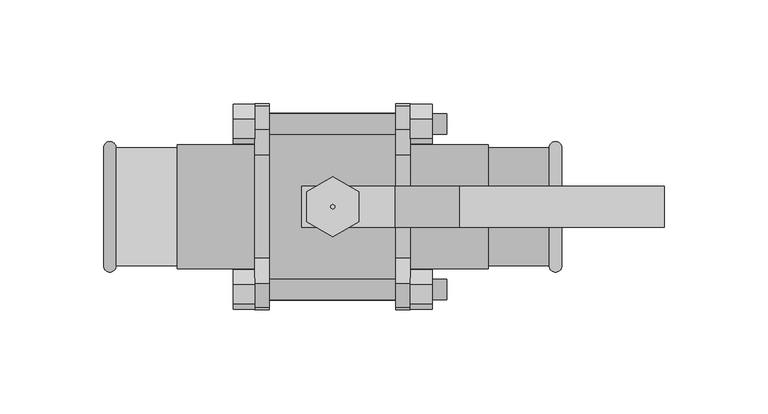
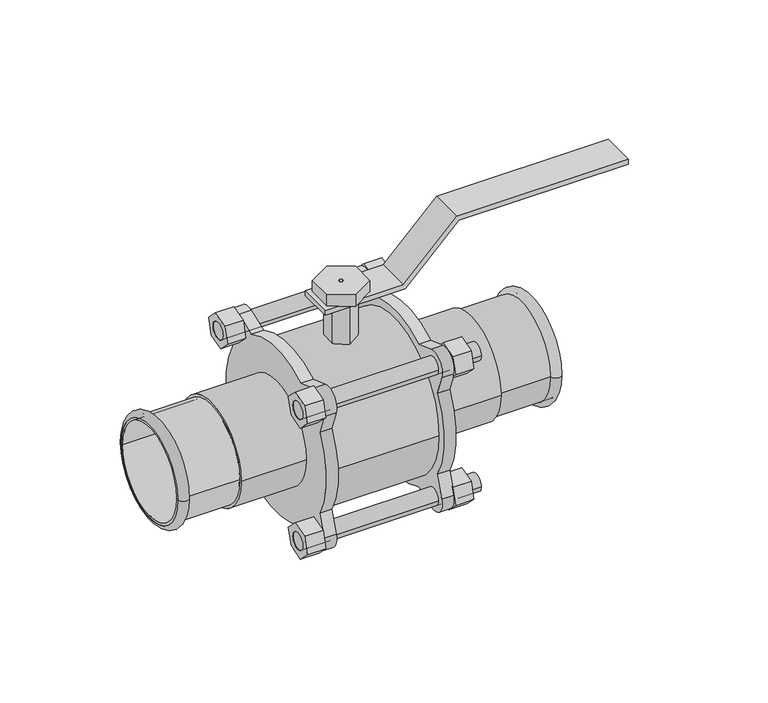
"""IFC4 building model written with IfcOpenShell, lengths in millimetres: valve geometry, NLRS_50_PIA_UN_Geberit Mapress CuNiFe kogelkraan met bedieningshendel, geflensd_PRO_332965 : DN12-100 / d15-108 - OD."""

from ifc_helpers import new_model, si_unit, point, frame, frame_2d, origin, origin_2d, place, context, project, spatial, polyline, circle_curve, ellipse_curve, trimmed, segment, composite_curve, outline, extrude, source, transform, mapped, element, save
from ifc_brep_helpers import plane_surface, cylinder_surface, revolved_surface, advanced_brep


def valve_6e79c216(model_context):
    return source(origin(), model_context, "Body", "SolidModel", [
        extrude(outline(polyline([(68.0, 31.2426407), (99.0, 62.2426407), (99.0, 160.0), (102.0, 160.0), (102.0, 61.0), (71.0, 30.0), (71.0, -15.0), (68.0, -15.0), (68.0, 31.2426407)])), frame((0.0, -10.0, 0.0), z_axis=(0.0, 1.0, 0.0), x_axis=(0.0, 0.0, 1.0)), (0.0, 0.0, 1.0), 20.0),
        advanced_brep(
        [(110.5, -28.5, 0.0), (110.5, 28.5, 0.0), (104.4987073, 28.5, 0.0), (104.4987073, -28.5, 0.0)],
        [
            (0, 1, circle_curve(frame((110.5, 0.0, 0.0), z_axis=(1.0, 0.0, 0.0), x_axis=(0.0, 1.0, 0.0)), 28.5)),
            (1, 2),
            (2, 3, circle_curve(frame((104.4987073, 0.0, 0.0), z_axis=(-1.0, 0.0, 0.0), x_axis=(0.0, 1.0, 0.0)), 28.5)),
            (3, 0),
            (1, 0, circle_curve(frame((110.5, 0.0, 0.0), z_axis=(1.0, 0.0, 0.0), x_axis=(0.0, 1.0, 0.0)), 28.5)),
            (3, 2, circle_curve(frame((104.4987073, 0.0, 0.0), z_axis=(-1.0, 0.0, 0.0), x_axis=(0.0, 1.0, 0.0)), 28.5)),
            (2, 1, circle_curve(frame((107.4993536, 28.5, 0.0), z_axis=(0.0, 0.0, -1.0), x_axis=(1.0, 0.0, 0.0)), 3.0006464)),
            (0, 3, circle_curve(frame((107.4993536, -28.5, 0.0), z_axis=(0.0, 0.0, -1.0), x_axis=(1.0, 0.0, 0.0)), 3.0006464)),
        ],
        [
            revolved_surface(polyline([(104.4987073, 28.5, 0.0), (110.5, 28.5, 0.0)]), (75.0, 0.0, 0.0), (-1.0, 0.0, 0.0)),
            revolved_surface(trimmed(ellipse_curve(frame((107.4993536, 28.5, 0.0), z_axis=(0.0, 0.0, 1.0), x_axis=(1.0, 0.0, 0.0)), 3.0006464, 3.0006464), [point((110.5, 28.5, 0.0))], [point((104.4987073, 28.5, 0.0))], True, "CARTESIAN"), (75.0, 0.0, 0.0), (-1.0, 0.0, 0.0)),
        ],
        [
            (0, [[1, 2, 3, 4]]),
            (0, [[5, -4, 6, -2]]),
            (1, [[-3, 7, -1, 8]]),
            (1, [[-6, -8, -5, -7]]),
        ],
    ),
        advanced_brep(
        [(110.5, -27.0, 0.0), (110.5, 27.0, 0.0), (74.0, 27.0, 0.0), (74.0, -27.0, 0.0), (110.5, -28.5, 0.0), (110.5, 28.5, 0.0), (75.0, -28.5, 0.0), (75.0, 28.5, 0.0)],
        [
            (0, 1, circle_curve(frame((110.5, 0.0, 0.0), z_axis=(1.0, 0.0, 0.0), x_axis=(0.0, 1.0, 0.0)), 27.0)),
            (1, 2),
            (2, 3, circle_curve(frame((74.0, 0.0, 0.0), z_axis=(-1.0, 0.0, 0.0), x_axis=(0.0, 1.0, 0.0)), 27.0)),
            (3, 0),
            (1, 0, circle_curve(frame((110.5, 0.0, 0.0), z_axis=(1.0, 0.0, 0.0), x_axis=(0.0, 1.0, 0.0)), 27.0)),
            (3, 2, circle_curve(frame((74.0, 0.0, 0.0), z_axis=(-1.0, 0.0, 0.0), x_axis=(0.0, 1.0, 0.0)), 27.0)),
            (4, 5, circle_curve(frame((110.5, 0.0, 0.0), z_axis=(1.0, 0.0, 0.0), x_axis=(0.0, 1.0, 0.0)), 28.5)),
            (5, 1),
            (0, 4),
            (5, 4, circle_curve(frame((110.5, 0.0, 0.0), z_axis=(1.0, 0.0, 0.0), x_axis=(0.0, 1.0, 0.0)), 28.5)),
            (6, 7, circle_curve(frame((75.0, 0.0, 0.0), z_axis=(1.0, 0.0, 0.0), x_axis=(0.0, 1.0, 0.0)), 28.5)),
            (7, 5),
            (4, 6),
            (7, 6, circle_curve(frame((75.0, 0.0, 0.0), z_axis=(1.0, 0.0, 0.0), x_axis=(0.0, 1.0, 0.0)), 28.5)),
            (2, 7),
            (6, 3),
        ],
        [
            revolved_surface(polyline([(74.0, 27.0, 0.0), (110.5, 27.0, 0.0)]), (75.0, 0.0, 0.0), (-1.0, 0.0, 0.0)),
            plane_surface(frame((110.5, 0.0, 0.0), z_axis=(1.0, 0.0, 0.0), x_axis=(0.0, 1.0, 0.0))),
            cylinder_surface(frame((75.0, 0.0, 0.0), z_axis=(-1.0, 0.0, 0.0), x_axis=(0.0, 1.0, 0.0)), 28.5),
            revolved_surface(polyline([(75.0, 28.5, 0.0), (74.0, 27.0, 0.0)]), (75.0, 0.0, 0.0), (-1.0, 0.0, 0.0)),
        ],
        [
            (0, [[1, 2, 3, 4]]),
            (0, [[5, -4, 6, -2]]),
            (1, [[7, 8, -1, 9]]),
            (1, [[10, -9, -5, -8]]),
            (2, [[11, 12, -7, 13]]),
            (2, [[14, -13, -10, -12]]),
            (3, [[-3, 15, -11, 16]]),
            (3, [[-6, -16, -14, -15]]),
        ],
    ),
        advanced_brep(
        [(-110.5, 28.5, 0.0), (-110.5, -28.5, 0.0), (-104.4987073, -28.5, 0.0), (-104.4987073, 28.5, 0.0)],
        [
            (0, 1, circle_curve(frame((-110.5, 0.0, 0.0), z_axis=(-1.0, 0.0, 0.0), x_axis=(0.0, -1.0, 0.0)), 28.5)),
            (1, 2),
            (2, 3, circle_curve(frame((-104.4987073, 0.0, 0.0), z_axis=(1.0, 0.0, 0.0), x_axis=(0.0, -1.0, 0.0)), 28.5)),
            (3, 0),
            (1, 0, circle_curve(frame((-110.5, 0.0, 0.0), z_axis=(-1.0, 0.0, 0.0), x_axis=(0.0, -1.0, 0.0)), 28.5)),
            (3, 2, circle_curve(frame((-104.4987073, 0.0, 0.0), z_axis=(1.0, 0.0, 0.0), x_axis=(0.0, -1.0, 0.0)), 28.5)),
            (2, 1, circle_curve(frame((-107.4993536, -28.5, 0.0), z_axis=(0.0, 0.0, -1.0), x_axis=(-1.0, 0.0, 0.0)), 3.0006464)),
            (0, 3, circle_curve(frame((-107.4993536, 28.5, 0.0), z_axis=(0.0, 0.0, -1.0), x_axis=(-1.0, 0.0, 0.0)), 3.0006464)),
        ],
        [
            revolved_surface(polyline([(-104.4987073, -28.5, 0.0), (-110.5, -28.5, 0.0)]), (-75.0, 0.0, 0.0), (1.0, 0.0, 0.0)),
            revolved_surface(trimmed(ellipse_curve(frame((-107.4993536, -28.5, 0.0), z_axis=(0.0, 0.0, 1.0), x_axis=(-1.0, 0.0, 0.0)), 3.0006464, 3.0006464), [point((-110.5, -28.5, 0.0))], [point((-104.4987073, -28.5, 0.0))], True, "CARTESIAN"), (-75.0, 0.0, 0.0), (1.0, 0.0, 0.0)),
        ],
        [
            (0, [[1, 2, 3, 4]]),
            (0, [[5, -4, 6, -2]]),
            (1, [[-3, 7, -1, 8]]),
            (1, [[-6, -8, -5, -7]]),
        ],
    ),
        advanced_brep(
        [(-110.5, 27.0, 0.0), (-110.5, -27.0, 0.0), (-74.0, -27.0, 0.0), (-74.0, 27.0, 0.0), (-110.5, 28.5, 0.0), (-110.5, -28.5, 0.0), (-75.0, 28.5, 0.0), (-75.0, -28.5, 0.0)],
        [
            (0, 1, circle_curve(frame((-110.5, 0.0, 0.0), z_axis=(-1.0, 0.0, 0.0), x_axis=(0.0, -1.0, 0.0)), 27.0)),
            (1, 2),
            (2, 3, circle_curve(frame((-74.0, 0.0, 0.0), z_axis=(1.0, 0.0, 0.0), x_axis=(0.0, -1.0, 0.0)), 27.0)),
            (3, 0),
            (1, 0, circle_curve(frame((-110.5, 0.0, 0.0), z_axis=(-1.0, 0.0, 0.0), x_axis=(0.0, -1.0, 0.0)), 27.0)),
            (3, 2, circle_curve(frame((-74.0, 0.0, 0.0), z_axis=(1.0, 0.0, 0.0), x_axis=(0.0, -1.0, 0.0)), 27.0)),
            (4, 5, circle_curve(frame((-110.5, 0.0, 0.0), z_axis=(-1.0, 0.0, 0.0), x_axis=(0.0, -1.0, 0.0)), 28.5)),
            (5, 1),
            (0, 4),
            (5, 4, circle_curve(frame((-110.5, 0.0, 0.0), z_axis=(-1.0, 0.0, 0.0), x_axis=(0.0, -1.0, 0.0)), 28.5)),
            (6, 7, circle_curve(frame((-75.0, 0.0, 0.0), z_axis=(-1.0, 0.0, 0.0), x_axis=(0.0, -1.0, 0.0)), 28.5)),
            (7, 5),
            (4, 6),
            (7, 6, circle_curve(frame((-75.0, 0.0, 0.0), z_axis=(-1.0, 0.0, 0.0), x_axis=(0.0, -1.0, 0.0)), 28.5)),
            (2, 7),
            (6, 3),
        ],
        [
            revolved_surface(polyline([(-74.0, -27.0, 0.0), (-110.5, -27.0, 0.0)]), (-75.0, 0.0, 0.0), (1.0, 0.0, 0.0)),
            plane_surface(frame((-110.5, 0.0, 0.0), z_axis=(-1.0, 0.0, 0.0), x_axis=(0.0, -1.0, 0.0))),
            cylinder_surface(frame((-75.0, 0.0, 0.0), z_axis=(1.0, 0.0, 0.0), x_axis=(0.0, -1.0, 0.0)), 28.5),
            revolved_surface(polyline([(-75.0, -28.5, 0.0), (-74.0, -27.0, 0.0)]), (-75.0, 0.0, 0.0), (1.0, 0.0, 0.0)),
        ],
        [
            (0, [[1, 2, 3, 4]]),
            (0, [[5, -4, 6, -2]]),
            (1, [[7, 8, -1, 9]]),
            (1, [[10, -9, -5, -8]]),
            (2, [[11, 12, -7, 13]]),
            (2, [[14, -13, -10, -12]]),
            (3, [[-3, 15, -11, 16]]),
            (3, [[-6, -16, -14, -15]]),
        ],
    ),
        advanced_brep(
        [(-30.5, -45.0, 0.0), (-30.5, 45.0, 0.0), (30.5, -45.0, 0.0), (30.5, 45.0, 0.0), (0.0, -8.660254, 44.1588043), (-7.5, -4.330127, 44.7911822), (-7.5, 4.330127, 44.7911822), (0.0, 8.660254, 44.1588043), (7.5, 4.330127, 44.7911822), (7.5, -4.330127, 44.7911822), (-1.0, -0.5773503, 44.9962961), (0.0, -1.1547005, 44.9851827), (1.0, -0.5773503, 44.9962961), (1.0, 0.5773503, 44.9962961), (0.0, 1.1547005, 44.9851827), (-1.0, 0.5773503, 44.9962961), (-12.5, -7.2168784, 78.0), (-12.5, -7.2168784, 71.0), (0.0, -14.4337567, 71.0), (0.0, -14.4337567, 78.0), (-1.0, -0.5773503, 78.0), (0.0, -1.1547005, 78.0), (0.0, -8.660254, 71.0), (-7.5, -4.330127, 71.0), (12.5, -7.2168784, 71.0), (12.5, -7.2168784, 78.0), (1.0, -0.5773503, 78.0), (7.5, -4.330127, 71.0), (12.5, 7.2168784, 78.0), (12.5, 7.2168784, 71.0), (0.0, 14.4337567, 71.0), (0.0, 14.4337567, 78.0), (1.0, 0.5773503, 78.0), (0.0, 1.1547005, 78.0), (0.0, 8.660254, 71.0), (7.5, 4.330127, 71.0), (-12.5, 7.2168784, 71.0), (-12.5, 7.2168784, 78.0), (-1.0, 0.5773503, 78.0), (-7.5, 4.330127, 71.0)],
        [
            (0, 1, circle_curve(frame((-30.5, 0.0, 0.0), z_axis=(-1.0, 0.0, 0.0), x_axis=(0.0, 1.0, 0.0)), 45.0)),
            (1, 0, circle_curve(frame((-30.5, 0.0, 0.0), z_axis=(-1.0, 0.0, 0.0), x_axis=(0.0, 1.0, 0.0)), 45.0)),
            (2, 3, circle_curve(frame((30.5, 0.0, 0.0), z_axis=(1.0, 0.0, 0.0), x_axis=(0.0, 1.0, 0.0)), 45.0)),
            (3, 2, circle_curve(frame((30.5, 0.0, 0.0), z_axis=(1.0, 0.0, 0.0), x_axis=(0.0, 1.0, 0.0)), 45.0)),
            (0, 2),
            (3, 1),
            (4, 5, ellipse_curve(frame((-15.0, 0.0, 0.0), z_axis=(-0.5000000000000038, -0.8660254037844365, 0.0), x_axis=(-0.8660254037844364, 0.5000000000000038, 0.0)), 90.0, 45.0)),
            (5, 6, circle_curve(frame((-7.5, 0.0, 0.0), z_axis=(-1.0, 0.0, 0.0), x_axis=(0.0, 1.0, 0.0)), 45.0)),
            (6, 7, ellipse_curve(frame((-15.0, 0.0, 0.0), z_axis=(-0.4999999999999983, 0.8660254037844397, 0.0), x_axis=(-0.8660254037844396, -0.4999999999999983, 0.0)), 90.0, 45.0)),
            (7, 8, ellipse_curve(frame((15.0, 0.0, 0.0), z_axis=(0.5000000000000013, 0.8660254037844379, 0.0), x_axis=(-0.8660254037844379, 0.5000000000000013, 0.0)), 90.0, 45.0)),
            (8, 9, circle_curve(frame((7.5, 0.0, 0.0), z_axis=(1.0, 0.0, 0.0), x_axis=(0.0, 1.0, 0.0)), 45.0)),
            (9, 4, ellipse_curve(frame((15.0, 0.0, 0.0), z_axis=(0.4999999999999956, -0.8660254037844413, 0.0), x_axis=(-0.8660254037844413, -0.49999999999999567, 0.0)), 90.0, 45.0)),
            (10, 11, ellipse_curve(frame((-2.0, 0.0, 0.0), z_axis=(0.5000000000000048, 0.866025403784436, 0.0), x_axis=(-0.8660254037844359, 0.5000000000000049, 0.0)), 90.0, 45.0)),
            (11, 12, ellipse_curve(frame((2.0, 0.0, 0.0), z_axis=(-0.4999999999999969, 0.8660254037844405, 0.0), x_axis=(-0.8660254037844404, -0.4999999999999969, 0.0)), 90.0, 45.0)),
            (12, 13, circle_curve(frame((1.0, 0.0, 0.0), z_axis=(-1.0, 0.0, 0.0), x_axis=(0.0, 1.0, 0.0)), 45.0)),
            (13, 14, ellipse_curve(frame((2.0, 0.0, 0.0), z_axis=(-0.5000000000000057, -0.8660254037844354, 0.0), x_axis=(-0.8660254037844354, 0.5000000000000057, 0.0)), 90.0, 45.0)),
            (14, 15, ellipse_curve(frame((-2.0, 0.0, 0.0), z_axis=(0.5000000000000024, -0.8660254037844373, 0.0), x_axis=(-0.8660254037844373, -0.5000000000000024, 0.0)), 90.0, 45.0)),
            (15, 10, circle_curve(frame((-1.0, 0.0, 0.0), z_axis=(1.0, 0.0, 0.0), x_axis=(0.0, 1.0, 0.0)), 45.0)),
            (16, 17),
            (17, 18),
            (18, 19),
            (19, 16),
            (20, 21),
            (21, 11),
            (10, 20),
            (22, 23),
            (23, 5),
            (4, 22),
            (18, 24),
            (24, 25),
            (25, 19),
            (21, 26),
            (26, 12),
            (27, 22),
            (9, 27),
            (28, 29),
            (29, 30),
            (30, 31),
            (31, 28),
            (32, 33),
            (33, 14),
            (13, 32),
            (34, 35),
            (35, 8),
            (7, 34),
            (30, 36),
            (36, 37),
            (37, 31),
            (33, 38),
            (38, 15),
            (39, 34),
            (6, 39),
            (24, 29),
            (28, 25),
            (26, 32),
            (35, 27),
            (17, 36),
            (39, 23),
            (16, 37),
            (20, 38),
        ],
        [
            plane_surface(frame((-30.5, 0.0, 0.0), z_axis=(-1.0, 0.0, 0.0), x_axis=(0.0, 0.0, 1.0))),
            plane_surface(frame((30.5, 0.0, 0.0), z_axis=(1.0, 0.0, 0.0), x_axis=(0.0, 0.0, 1.0))),
            cylinder_surface(frame((-30.5, 0.0, 0.0), z_axis=(-1.0, 0.0, 0.0), x_axis=(0.0, 1.0, 0.0)), 45.0),
            plane_surface(frame((-12.5, -7.2168784, 71.0), z_axis=(-0.5000000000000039, -0.8660254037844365, 0.0), x_axis=(0.8660254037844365, -0.5000000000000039, 0.0))),
            plane_surface(frame((-1.0, -0.5773503, 78.0), z_axis=(0.5000000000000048, 0.866025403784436, 0.0), x_axis=(0.866025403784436, -0.5000000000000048, 0.0))),
            plane_surface(frame((-7.5, -4.330127, 0.0), z_axis=(-0.5000000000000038, -0.8660254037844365, 0.0), x_axis=(0.8660254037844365, -0.5000000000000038, 0.0))),
            plane_surface(frame((0.0, -14.4337567, 71.0), z_axis=(0.49999999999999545, -0.8660254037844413, 0.0), x_axis=(0.8660254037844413, 0.49999999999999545, 0.0))),
            plane_surface(frame((0.0, -1.1547005, 78.0), z_axis=(-0.4999999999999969, 0.8660254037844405, 0.0), x_axis=(0.8660254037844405, 0.4999999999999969, 0.0))),
            plane_surface(frame((0.0, -8.660254, 0.0), z_axis=(0.4999999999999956, -0.8660254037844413, 0.0), x_axis=(0.8660254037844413, 0.4999999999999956, 0.0))),
            plane_surface(frame((12.5, 7.2168784, 71.0), z_axis=(0.5000000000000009, 0.8660254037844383, 0.0), x_axis=(-0.8660254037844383, 0.5000000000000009, 0.0))),
            plane_surface(frame((1.0, 0.5773503, 78.0), z_axis=(-0.5000000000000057, -0.8660254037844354, 0.0), x_axis=(-0.8660254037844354, 0.5000000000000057, 0.0))),
            plane_surface(frame((7.5, 4.330127, 0.0), z_axis=(0.5000000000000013, 0.8660254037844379, 0.0), x_axis=(-0.8660254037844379, 0.5000000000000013, 0.0))),
            plane_surface(frame((0.0, 14.4337567, 71.0), z_axis=(-0.4999999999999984, 0.8660254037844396, 0.0), x_axis=(-0.8660254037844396, -0.4999999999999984, 0.0))),
            plane_surface(frame((0.0, 1.1547005, 78.0), z_axis=(0.5000000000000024, -0.8660254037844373, 0.0), x_axis=(-0.8660254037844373, -0.5000000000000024, 0.0))),
            plane_surface(frame((0.0, 8.660254, 0.0), z_axis=(-0.4999999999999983, 0.8660254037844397, 0.0), x_axis=(-0.8660254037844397, -0.4999999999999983, 0.0))),
            plane_surface(frame((12.5, -7.2168784, 71.0), z_axis=(1.0, 0.0, 0.0), x_axis=(0.0, 1.0, 0.0))),
            plane_surface(frame((1.0, -0.5773503, 78.0), z_axis=(-1.0, 0.0, 0.0), x_axis=(0.0, 1.0, 0.0))),
            plane_surface(frame((7.5, -4.330127, 0.0), z_axis=(1.0, 0.0, 0.0), x_axis=(0.0, 1.0, 0.0))),
            plane_surface(frame((-7.5, 4.330127, 71.0), z_axis=(0.0, 0.0, -1.0), x_axis=(0.0, -1.0, 0.0))),
            plane_surface(frame((-12.5, 7.2168784, 71.0), z_axis=(-1.0, 0.0, 0.0), x_axis=(0.0, -1.0, 0.0))),
            plane_surface(frame((-12.5, 7.2168784, 78.0), z_axis=(0.0, 0.0, 1.0), x_axis=(0.0, -1.0, 0.0))),
            plane_surface(frame((-1.0, 0.5773503, 78.0), z_axis=(1.0, 0.0, 0.0), x_axis=(0.0, -1.0, 0.0))),
            plane_surface(frame((-7.5, 4.330127, 0.0), z_axis=(-1.0, 0.0, 0.0), x_axis=(0.0, -1.0, 0.0))),
        ],
        [
            (0, [[1, 2]]),
            (1, [[3, 4]]),
            (2, [[-1, 5, -4, 6], [7, 8, 9, 10, 11, 12]]),
            (2, [[13, 14, 15, 16, 17, 18]]),
            (2, [[-2, -6, -3, -5]]),
            (3, [[19, 20, 21, 22]]),
            (4, [[23, 24, -13, 25]]),
            (5, [[26, 27, -7, 28]]),
            (6, [[-21, 29, 30, 31]]),
            (7, [[32, 33, -14, -24]]),
            (8, [[34, -28, -12, 35]]),
            (9, [[36, 37, 38, 39]]),
            (10, [[40, 41, -16, 42]]),
            (11, [[43, 44, -10, 45]]),
            (12, [[-38, 46, 47, 48]]),
            (13, [[49, 50, -17, -41]]),
            (14, [[51, -45, -9, 52]]),
            (15, [[-30, 53, -36, 54]]),
            (16, [[55, -42, -15, -33]]),
            (17, [[56, -35, -11, -44]]),
            (18, [[-20, 57, -46, -37, -53, -29], [-26, -34, -56, -43, -51, 58]]),
            (19, [[-19, 59, -47, -57]]),
            (20, [[-22, -31, -54, -39, -48, -59], [-23, 60, -49, -40, -55, -32]]),
            (21, [[-60, -25, -18, -50]]),
            (22, [[-58, -52, -8, -27]]),
        ],
    ),
        extrude(outline(composite_curve([segment(trimmed(circle_curve(origin_2d(), 30.0), [point((-30.0, 0.0))], [point((30.0, 0.0))], False, "CARTESIAN"), True, "CONTINUOUS"), segment(trimmed(circle_curve(origin_2d(), 30.0), [point((30.0, 0.0))], [point((-30.0, 0.0))], False, "CARTESIAN"), True, "CONTINUOUS")], self_intersect=False)), frame((37.5, 0.0, 0.0), z_axis=(1.0, 0.0, 0.0), x_axis=(0.0, 1.0, 0.0)), (0.0, 0.0, 1.0), 37.5),
        extrude(outline(composite_curve([segment(trimmed(circle_curve(origin_2d(), 30.0), [point((-30.0, 0.0))], [point((30.0, 0.0))], False, "CARTESIAN"), True, "CONTINUOUS"), segment(trimmed(circle_curve(origin_2d(), 30.0), [point((30.0, 0.0))], [point((-30.0, 0.0))], False, "CARTESIAN"), True, "CONTINUOUS")], self_intersect=False)), frame((-75.0, 0.0, 0.0), z_axis=(1.0, 0.0, 0.0), x_axis=(0.0, 1.0, 0.0)), (0.0, 0.0, 1.0), 37.5),
        extrude(outline(polyline([(46.8917541, 33.0113122), (37.411236, 30.471015), (30.471015, 37.411236), (33.0113122, 46.8917541), (42.4918303, 49.4320512), (49.4320512, 42.4918303), (46.8917541, 33.0113122)]), holes=[composite_curve([segment(trimmed(circle_curve(frame_2d((39.9515331, 39.9515331)), 5.0), [point((44.9515331, 39.9515331))], [point((34.9515331, 39.9515331))], True, "CARTESIAN"), True, "CONTINUOUS"), segment(trimmed(circle_curve(frame_2d((39.9515331, 39.9515331)), 5.0), [point((34.9515331, 39.9515331))], [point((44.9515331, 39.9515331))], True, "CARTESIAN"), True, "CONTINUOUS")], self_intersect=False)]), frame((37.5, 0.0, 0.0), z_axis=(1.0, 0.0, 0.0), x_axis=(0.0, 1.0, 0.0)), (0.0, 0.0, 1.0), 10.5),
        extrude(outline(polyline([(-33.0113122, 33.0113122), (-42.4918303, 30.471015), (-49.4320512, 37.411236), (-46.8917541, 46.8917541), (-37.411236, 49.4320512), (-30.471015, 42.4918303), (-33.0113122, 33.0113122)]), holes=[composite_curve([segment(trimmed(circle_curve(frame_2d((-39.9515331, 39.9515331)), 5.0), [point((-34.9515331, 39.9515331))], [point((-44.9515331, 39.9515331))], True, "CARTESIAN"), True, "CONTINUOUS"), segment(trimmed(circle_curve(frame_2d((-39.9515331, 39.9515331)), 5.0), [point((-44.9515331, 39.9515331))], [point((-34.9515331, 39.9515331))], True, "CARTESIAN"), True, "CONTINUOUS")], self_intersect=False)]), frame((37.5, 0.0, 0.0), z_axis=(1.0, 0.0, 0.0), x_axis=(0.0, 1.0, 0.0)), (0.0, 0.0, 1.0), 10.5),
        extrude(outline(polyline([(-33.0113122, -46.8917541), (-42.4918303, -49.4320512), (-49.4320512, -42.4918303), (-46.8917541, -33.0113122), (-37.411236, -30.471015), (-30.471015, -37.411236), (-33.0113122, -46.8917541)]), holes=[composite_curve([segment(trimmed(circle_curve(frame_2d((-39.9515331, -39.9515331)), 5.0), [point((-34.9515331, -39.9515331))], [point((-44.9515331, -39.9515331))], True, "CARTESIAN"), True, "CONTINUOUS"), segment(trimmed(circle_curve(frame_2d((-39.9515331, -39.9515331)), 5.0), [point((-44.9515331, -39.9515331))], [point((-34.9515331, -39.9515331))], True, "CARTESIAN"), True, "CONTINUOUS")], self_intersect=False)]), frame((37.5, 0.0, 0.0), z_axis=(1.0, 0.0, 0.0), x_axis=(0.0, 1.0, 0.0)), (0.0, 0.0, 1.0), 10.5),
        extrude(outline(polyline([(46.8917541, -46.8917541), (37.411236, -49.4320512), (30.471015, -42.4918303), (33.0113122, -33.0113122), (42.4918303, -30.471015), (49.4320512, -37.411236), (46.8917541, -46.8917541)]), holes=[composite_curve([segment(trimmed(circle_curve(frame_2d((39.9515331, -39.9515331)), 5.0), [point((44.9515331, -39.9515331))], [point((34.9515331, -39.9515331))], True, "CARTESIAN"), True, "CONTINUOUS"), segment(trimmed(circle_curve(frame_2d((39.9515331, -39.9515331)), 5.0), [point((34.9515331, -39.9515331))], [point((44.9515331, -39.9515331))], True, "CARTESIAN"), True, "CONTINUOUS")], self_intersect=False)]), frame((37.5, 0.0, 0.0), z_axis=(1.0, 0.0, 0.0), x_axis=(0.0, 1.0, 0.0)), (0.0, 0.0, 1.0), 10.5),
        extrude(outline(polyline([(46.8917541, 33.0113122), (37.411236, 30.471015), (30.471015, 37.411236), (33.0113122, 46.8917541), (42.4918303, 49.4320512), (49.4320512, 42.4918303), (46.8917541, 33.0113122)]), holes=[composite_curve([segment(trimmed(circle_curve(frame_2d((39.9515331, 39.9515331)), 5.0), [point((44.9515331, 39.9515331))], [point((34.9515331, 39.9515331))], True, "CARTESIAN"), True, "CONTINUOUS"), segment(trimmed(circle_curve(frame_2d((39.9515331, 39.9515331)), 5.0), [point((34.9515331, 39.9515331))], [point((44.9515331, 39.9515331))], True, "CARTESIAN"), True, "CONTINUOUS")], self_intersect=False)]), frame((-48.0, 0.0, 0.0), z_axis=(1.0, 0.0, 0.0), x_axis=(0.0, 1.0, 0.0)), (0.0, 0.0, 1.0), 10.5),
        extrude(outline(polyline([(-33.0113122, 33.0113122), (-42.4918303, 30.471015), (-49.4320512, 37.411236), (-46.8917541, 46.8917541), (-37.411236, 49.4320512), (-30.471015, 42.4918303), (-33.0113122, 33.0113122)]), holes=[composite_curve([segment(trimmed(circle_curve(frame_2d((-39.9515331, 39.9515331)), 5.0), [point((-34.9515331, 39.9515331))], [point((-44.9515331, 39.9515331))], True, "CARTESIAN"), True, "CONTINUOUS"), segment(trimmed(circle_curve(frame_2d((-39.9515331, 39.9515331)), 5.0), [point((-44.9515331, 39.9515331))], [point((-34.9515331, 39.9515331))], True, "CARTESIAN"), True, "CONTINUOUS")], self_intersect=False)]), frame((-48.0, 0.0, 0.0), z_axis=(1.0, 0.0, 0.0), x_axis=(0.0, 1.0, 0.0)), (0.0, 0.0, 1.0), 10.5),
        extrude(outline(polyline([(-33.0113122, -46.8917541), (-42.4918303, -49.4320512), (-49.4320512, -42.4918303), (-46.8917541, -33.0113122), (-37.411236, -30.471015), (-30.471015, -37.411236), (-33.0113122, -46.8917541)]), holes=[composite_curve([segment(trimmed(circle_curve(frame_2d((-39.9515331, -39.9515331)), 5.0), [point((-34.9515331, -39.9515331))], [point((-44.9515331, -39.9515331))], True, "CARTESIAN"), True, "CONTINUOUS"), segment(trimmed(circle_curve(frame_2d((-39.9515331, -39.9515331)), 5.0), [point((-44.9515331, -39.9515331))], [point((-34.9515331, -39.9515331))], True, "CARTESIAN"), True, "CONTINUOUS")], self_intersect=False)]), frame((-48.0, 0.0, 0.0), z_axis=(1.0, 0.0, 0.0), x_axis=(0.0, 1.0, 0.0)), (0.0, 0.0, 1.0), 10.5),
        extrude(outline(polyline([(46.8917541, -46.8917541), (37.411236, -49.4320512), (30.471015, -42.4918303), (33.0113122, -33.0113122), (42.4918303, -30.471015), (49.4320512, -37.411236), (46.8917541, -46.8917541)]), holes=[composite_curve([segment(trimmed(circle_curve(frame_2d((39.9515331, -39.9515331)), 5.0), [point((44.9515331, -39.9515331))], [point((34.9515331, -39.9515331))], True, "CARTESIAN"), True, "CONTINUOUS"), segment(trimmed(circle_curve(frame_2d((39.9515331, -39.9515331)), 5.0), [point((34.9515331, -39.9515331))], [point((44.9515331, -39.9515331))], True, "CARTESIAN"), True, "CONTINUOUS")], self_intersect=False)]), frame((-48.0, 0.0, 0.0), z_axis=(1.0, 0.0, 0.0), x_axis=(0.0, 1.0, 0.0)), (0.0, 0.0, 1.0), 10.5),
        extrude(outline(composite_curve([segment(polyline([(-43.4565382, 24.7291181), (-47.9389204, 37.0443619)]), True, "CONTINUOUS"), segment(trimmed(circle_curve(frame_2d((-39.9515331, 39.9515331)), 8.5), [point((-47.9389204, 37.0443619))], [point((-37.0443619, 47.9389204))], False, "CARTESIAN"), True, "CONTINUOUS"), segment(polyline([(-37.0443619, 47.9389204), (-24.7291181, 43.4565382)]), True, "CONTINUOUS"), segment(trimmed(circle_curve(origin_2d(), 50.0), [point((-24.7291181, 43.4565382))], [point((24.7291181, 43.4565382))], False, "CARTESIAN"), True, "CONTINUOUS"), segment(polyline([(24.7291181, 43.4565382), (37.0443619, 47.9389204)]), True, "CONTINUOUS"), segment(trimmed(circle_curve(frame_2d((39.9515331, 39.9515331)), 8.5), [point((37.0443619, 47.9389204))], [point((47.9389204, 37.0443619))], False, "CARTESIAN"), True, "CONTINUOUS"), segment(polyline([(47.9389204, 37.0443619), (43.4565382, 24.7291181)]), True, "CONTINUOUS"), segment(trimmed(circle_curve(origin_2d(), 50.0), [point((43.4565382, 24.7291181))], [point((43.4565382, -24.7291181))], False, "CARTESIAN"), True, "CONTINUOUS"), segment(polyline([(43.4565382, -24.7291181), (47.9389204, -37.0443619)]), True, "CONTINUOUS"), segment(trimmed(circle_curve(frame_2d((39.9515331, -39.9515331)), 8.5), [point((47.9389204, -37.0443619))], [point((37.0443619, -47.9389204))], False, "CARTESIAN"), True, "CONTINUOUS"), segment(polyline([(37.0443619, -47.9389204), (24.7291181, -43.4565382)]), True, "CONTINUOUS"), segment(trimmed(circle_curve(origin_2d(), 50.0), [point((24.7291181, -43.4565382))], [point((-24.7291181, -43.4565382))], False, "CARTESIAN"), True, "CONTINUOUS"), segment(polyline([(-24.7291181, -43.4565382), (-37.0443619, -47.9389204)]), True, "CONTINUOUS"), segment(trimmed(circle_curve(frame_2d((-39.9515331, -39.9515331)), 8.5), [point((-37.0443619, -47.9389204))], [point((-47.9389204, -37.0443619))], False, "CARTESIAN"), True, "CONTINUOUS"), segment(polyline([(-47.9389204, -37.0443619), (-43.4565382, -24.7291181)]), True, "CONTINUOUS"), segment(trimmed(circle_curve(origin_2d(), 50.0), [point((-43.4565382, -24.7291181))], [point((-43.4565382, 24.7291181))], False, "CARTESIAN"), True, "CONTINUOUS")], self_intersect=False)), frame((30.5, 0.0, 0.0), z_axis=(1.0, 0.0, 0.0), x_axis=(0.0, 1.0, 0.0)), (0.0, 0.0, 1.0), 7.0),
        extrude(outline(composite_curve([segment(polyline([(-43.4565382, 24.7291181), (-47.9389204, 37.0443619)]), True, "CONTINUOUS"), segment(trimmed(circle_curve(frame_2d((-39.9515331, 39.9515331)), 8.5), [point((-47.9389204, 37.0443619))], [point((-37.0443619, 47.9389204))], False, "CARTESIAN"), True, "CONTINUOUS"), segment(polyline([(-37.0443619, 47.9389204), (-24.7291181, 43.4565382)]), True, "CONTINUOUS"), segment(trimmed(circle_curve(origin_2d(), 50.0), [point((-24.7291181, 43.4565382))], [point((24.7291181, 43.4565382))], False, "CARTESIAN"), True, "CONTINUOUS"), segment(polyline([(24.7291181, 43.4565382), (37.0443619, 47.9389204)]), True, "CONTINUOUS"), segment(trimmed(circle_curve(frame_2d((39.9515331, 39.9515331)), 8.5), [point((37.0443619, 47.9389204))], [point((47.9389204, 37.0443619))], False, "CARTESIAN"), True, "CONTINUOUS"), segment(polyline([(47.9389204, 37.0443619), (43.4565382, 24.7291181)]), True, "CONTINUOUS"), segment(trimmed(circle_curve(origin_2d(), 50.0), [point((43.4565382, 24.7291181))], [point((43.4565382, -24.7291181))], False, "CARTESIAN"), True, "CONTINUOUS"), segment(polyline([(43.4565382, -24.7291181), (47.9389204, -37.0443619)]), True, "CONTINUOUS"), segment(trimmed(circle_curve(frame_2d((39.9515331, -39.9515331)), 8.5), [point((47.9389204, -37.0443619))], [point((37.0443619, -47.9389204))], False, "CARTESIAN"), True, "CONTINUOUS"), segment(polyline([(37.0443619, -47.9389204), (24.7291181, -43.4565382)]), True, "CONTINUOUS"), segment(trimmed(circle_curve(origin_2d(), 50.0), [point((24.7291181, -43.4565382))], [point((-24.7291181, -43.4565382))], False, "CARTESIAN"), True, "CONTINUOUS"), segment(polyline([(-24.7291181, -43.4565382), (-37.0443619, -47.9389204)]), True, "CONTINUOUS"), segment(trimmed(circle_curve(frame_2d((-39.9515331, -39.9515331)), 8.5), [point((-37.0443619, -47.9389204))], [point((-47.9389204, -37.0443619))], False, "CARTESIAN"), True, "CONTINUOUS"), segment(polyline([(-47.9389204, -37.0443619), (-43.4565382, -24.7291181)]), True, "CONTINUOUS"), segment(trimmed(circle_curve(origin_2d(), 50.0), [point((-43.4565382, -24.7291181))], [point((-43.4565382, 24.7291181))], False, "CARTESIAN"), True, "CONTINUOUS")], self_intersect=False)), frame((-37.5, 0.0, 0.0), z_axis=(1.0, 0.0, 0.0), x_axis=(0.0, 1.0, 0.0)), (0.0, 0.0, 1.0), 7.0),
        extrude(outline(composite_curve([segment(trimmed(circle_curve(frame_2d((-39.9515331, 39.9515331)), 5.0), [point((-44.9515331, 39.9515331))], [point((-34.9515331, 39.9515331))], False, "CARTESIAN"), True, "CONTINUOUS"), segment(trimmed(circle_curve(frame_2d((-39.9515331, 39.9515331)), 5.0), [point((-34.9515331, 39.9515331))], [point((-44.9515331, 39.9515331))], False, "CARTESIAN"), True, "CONTINUOUS")], self_intersect=False)), frame((-48.0, 0.0, 0.0), z_axis=(1.0, 0.0, 0.0), x_axis=(0.0, 1.0, 0.0)), (0.0, 0.0, 1.0), 103.0),
        extrude(outline(composite_curve([segment(trimmed(circle_curve(frame_2d((39.9515331, 39.9515331)), 5.0), [point((34.9515331, 39.9515331))], [point((44.9515331, 39.9515331))], False, "CARTESIAN"), True, "CONTINUOUS"), segment(trimmed(circle_curve(frame_2d((39.9515331, 39.9515331)), 5.0), [point((44.9515331, 39.9515331))], [point((34.9515331, 39.9515331))], False, "CARTESIAN"), True, "CONTINUOUS")], self_intersect=False)), frame((-48.0, 0.0, 0.0), z_axis=(1.0, 0.0, 0.0), x_axis=(0.0, 1.0, 0.0)), (0.0, 0.0, 1.0), 103.0),
        extrude(outline(composite_curve([segment(trimmed(circle_curve(frame_2d((-39.9515331, -39.9515331)), 5.0), [point((-44.9515331, -39.9515331))], [point((-34.9515331, -39.9515331))], False, "CARTESIAN"), True, "CONTINUOUS"), segment(trimmed(circle_curve(frame_2d((-39.9515331, -39.9515331)), 5.0), [point((-34.9515331, -39.9515331))], [point((-44.9515331, -39.9515331))], False, "CARTESIAN"), True, "CONTINUOUS")], self_intersect=False)), frame((-48.0, 0.0, 0.0), z_axis=(1.0, 0.0, 0.0), x_axis=(0.0, 1.0, 0.0)), (0.0, 0.0, 1.0), 103.0),
        extrude(outline(composite_curve([segment(trimmed(circle_curve(frame_2d((39.9515331, -39.9515331)), 5.0), [point((34.9515331, -39.9515331))], [point((44.9515331, -39.9515331))], False, "CARTESIAN"), True, "CONTINUOUS"), segment(trimmed(circle_curve(frame_2d((39.9515331, -39.9515331)), 5.0), [point((44.9515331, -39.9515331))], [point((34.9515331, -39.9515331))], False, "CARTESIAN"), True, "CONTINUOUS")], self_intersect=False)), frame((-48.0, 0.0, 0.0), z_axis=(1.0, 0.0, 0.0), x_axis=(0.0, 1.0, 0.0)), (0.0, 0.0, 1.0), 103.0),
    ])


if __name__ == "__main__":
    model = new_model("IFC4")
    model_context = context("Model", 3, world=origin())
    ifc_project = project(units=[si_unit("LENGTHUNIT", "METRE", prefix="MILLI")], contexts=[model_context])
    site = spatial("IfcSite", under=ifc_project)
    building = spatial("IfcBuilding", under=site)
    placement = place(None, origin())
    valve_shape = valve_6e79c216(model_context)
    element("IfcValve", 1, ObjectType="NLRS_50_PIA_UN_Geberit Mapress CuNiFe kogelkraan met bedieningshendel, geflensd_PRO_332965 : DN12-100 / d15-108 - OD", at=placement, inside=building, context=model_context, shape_type="MappedRepresentation", body=[
        mapped(valve_shape, transform((0.0, 0.0, 0.0), x_axis=(1.0, 0.0, 0.0), y_axis=(0.0, 1.0, 0.0), z_axis=(0.0, 0.0, 1.0))),
    ])
    save(model, "model.ifc")
